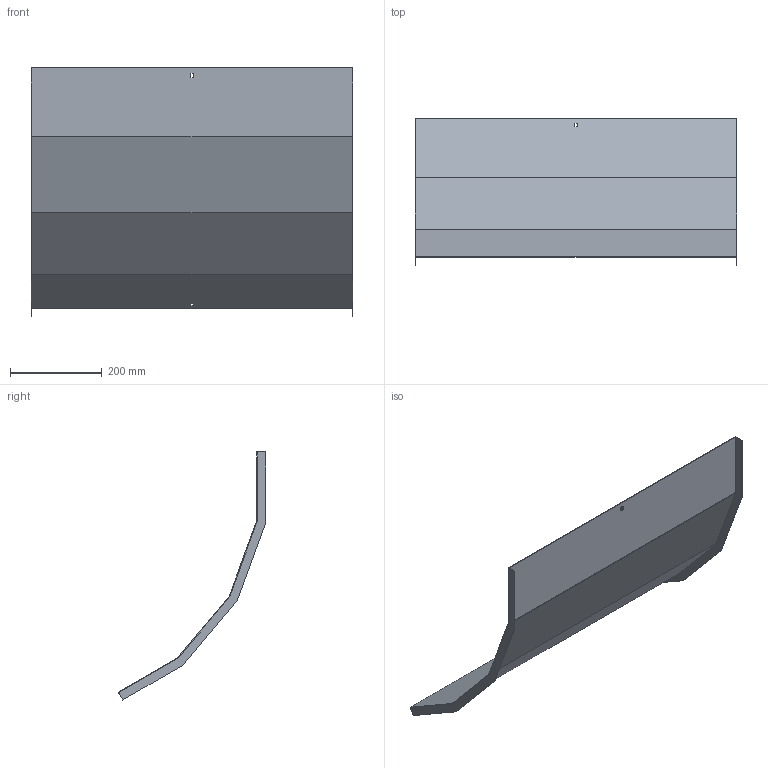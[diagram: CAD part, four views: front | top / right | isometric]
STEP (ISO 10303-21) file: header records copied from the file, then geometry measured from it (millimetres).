
FILE_DESCRIPTION (( 'STEP AP214' ), '1' );
FILE_NAME ('A2X40N5R700X.step', '2025-03-20T09:44:15', ( '' ), ( '' ), 'SwSTEP 2.0', 'SolidWorks 2023', '' );
FILE_SCHEMA (( 'AUTOMOTIVE_DESIGN' ));
Length unit declared in the file: millimetre
Products named in the file (1): A2X40N5R700X
Bounding box: 703 x 322.96 x 542.06 mm (x, y, z)
Volume: 724346.4 mm3; surface area: 970123.5 mm2
Topology: 1 solids, 1 shells, 30 faces, 84 edges, 56 vertices
Faces by surface type: plane 30
Entity records: 979 total; most frequent: CARTESIAN_POINT 171, ORIENTED_EDGE 168, DIRECTION 146, EDGE_CURVE 84, LINE 84, VECTOR 84, VERTEX_POINT 56, EDGE_LOOP 34
